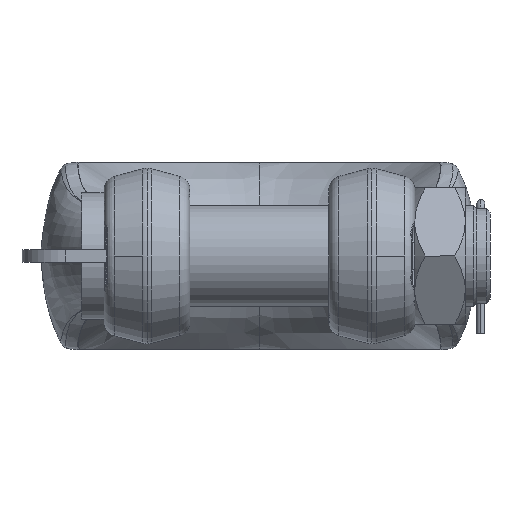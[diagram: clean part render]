
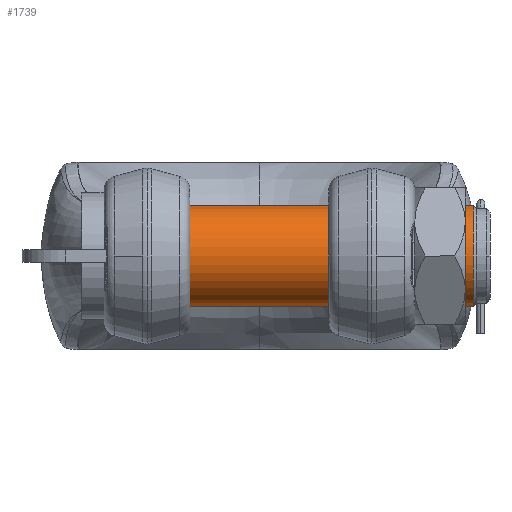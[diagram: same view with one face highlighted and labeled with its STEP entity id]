
A CAD part, front view. The second image highlights one B-rep face of the part: STEP entity #1739.
In plain terms, the highlighted cylindrical face has radius 100 mm (diameter 200 mm), a partial arc.
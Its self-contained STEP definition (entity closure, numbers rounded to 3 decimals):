
#1739=ADVANCED_FACE('',(#3554),#3555,.T.);
#3554=FACE_OUTER_BOUND('',#96775,.T.);
#3555=CYLINDRICAL_SURFACE('',#96776,100.0);
#96775=EDGE_LOOP('',(#101293,#101294,#101295,#101296));
#96776=AXIS2_PLACEMENT_3D('',#101297,#101298,#101299);
#101293=ORIENTED_EDGE('',*,*,#103853,.T.);
#101294=ORIENTED_EDGE('',*,*,#103864,.T.);
#101295=ORIENTED_EDGE('',*,*,#103855,.T.);
#101296=ORIENTED_EDGE('',*,*,#103861,.T.);
#101297=CARTESIAN_POINT('',(-307.5,0.0,0.0));
#101298=DIRECTION('',(-1.0,0.0,0.0));
#101299=DIRECTION('',(0.0,0.0,-1.0));
#103853=EDGE_CURVE('',#106963,#106959,#106964,.T.);
#103855=EDGE_CURVE('',#106957,#106965,#106967,.T.);
#103861=EDGE_CURVE('',#106965,#106963,#106975,.T.);
#103864=EDGE_CURVE('',#106959,#106957,#106978,.T.);
#106957=VERTEX_POINT('',#152701);
#106959=VERTEX_POINT('',#152704);
#106963=VERTEX_POINT('',#152709);
#106964=LINE('',#152710,#152711);
#106965=VERTEX_POINT('',#152712);
#106967=LINE('',#152714,#152715);
#106975=CIRCLE('',#152723,100.0);
#106978=CIRCLE('',#152726,100.0);
#152701=CARTESIAN_POINT('',(423.5,0.,100.0));
#152704=CARTESIAN_POINT('',(423.5,0.,-100.0));
#152709=CARTESIAN_POINT('',(-303.5,0.0,-100.0));
#152710=CARTESIAN_POINT('',(60.0,0.,-100.0));
#152711=VECTOR('',#154910,1.0);
#152712=CARTESIAN_POINT('',(-303.5,0.,100.0));
#152714=CARTESIAN_POINT('',(60.0,0.,100.0));
#152715=VECTOR('',#154914,1.0);
#152723=AXIS2_PLACEMENT_3D('',#154924,#154925,#154926);
#152726=AXIS2_PLACEMENT_3D('',#154930,#154931,#154932);
#154910=DIRECTION('',(1.0,-0.0,-0.0));
#154914=DIRECTION('',(-1.0,0.0,0.0));
#154924=CARTESIAN_POINT('',(-303.5,0.0,0.0));
#154925=DIRECTION('',(1.0,0.0,0.0));
#154926=DIRECTION('',(0.0,0.0,-1.0));
#154930=CARTESIAN_POINT('',(423.5,0.0,0.0));
#154931=DIRECTION('',(-1.0,0.0,0.0));
#154932=DIRECTION('',(0.0,0.0,-1.0));
